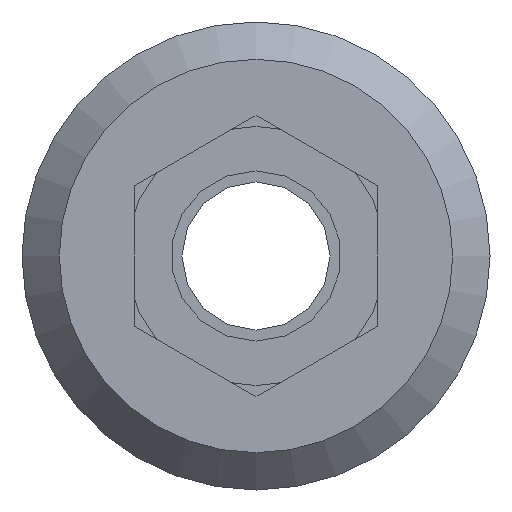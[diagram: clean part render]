
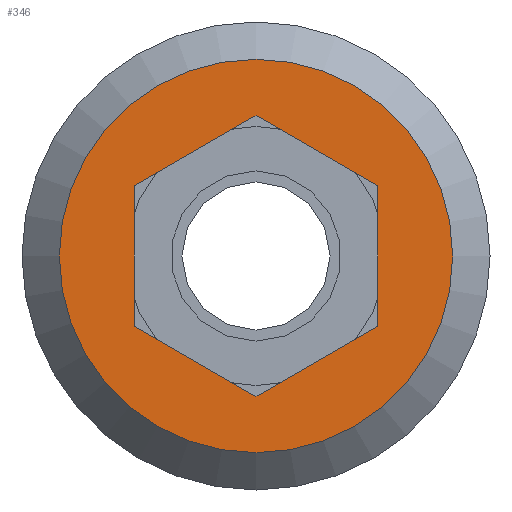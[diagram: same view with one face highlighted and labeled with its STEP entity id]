
A CAD part, front view. The second image highlights one B-rep face of the part: STEP entity #346.
In plain terms, the highlighted planar face has unit normal (0, -1, 0).
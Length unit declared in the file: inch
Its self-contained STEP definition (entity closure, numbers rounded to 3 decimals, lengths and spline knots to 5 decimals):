
#26=FACE_BOUND('',#89,.T.);
#43=CIRCLE('',#393,0.126);
#66=FACE_OUTER_BOUND('',#88,.T.);
#88=EDGE_LOOP('',(#293));
#89=EDGE_LOOP('',(#294,#295,#296,#297,#298,#299));
#95=LINE('',#524,#119);
#99=LINE('',#532,#123);
#102=LINE('',#538,#126);
#105=LINE('',#544,#129);
#108=LINE('',#550,#132);
#111=LINE('',#555,#135);
#119=VECTOR('',#412,0.3937);
#123=VECTOR('',#418,0.3937);
#126=VECTOR('',#423,0.3937);
#129=VECTOR('',#428,0.3937);
#132=VECTOR('',#433,0.3937);
#135=VECTOR('',#438,0.3937);
#143=VERTEX_POINT('',#522);
#144=VERTEX_POINT('',#523);
#147=VERTEX_POINT('',#531);
#149=VERTEX_POINT('',#537);
#151=VERTEX_POINT('',#543);
#153=VERTEX_POINT('',#549);
#168=VERTEX_POINT('',#593);
#177=EDGE_CURVE('',#143,#144,#95,.T.);
#181=EDGE_CURVE('',#147,#143,#99,.T.);
#184=EDGE_CURVE('',#149,#147,#102,.T.);
#187=EDGE_CURVE('',#151,#149,#105,.T.);
#190=EDGE_CURVE('',#153,#151,#108,.T.);
#193=EDGE_CURVE('',#144,#153,#111,.T.);
#211=EDGE_CURVE('',#168,#168,#43,.T.);
#293=ORIENTED_EDGE('',*,*,#211,.F.);
#294=ORIENTED_EDGE('',*,*,#177,.T.);
#295=ORIENTED_EDGE('',*,*,#193,.T.);
#296=ORIENTED_EDGE('',*,*,#190,.T.);
#297=ORIENTED_EDGE('',*,*,#187,.T.);
#298=ORIENTED_EDGE('',*,*,#184,.T.);
#299=ORIENTED_EDGE('',*,*,#181,.T.);
#330=PLANE('',#399);
#346=ADVANCED_FACE('',(#66,#26),#330,.T.);
#393=AXIS2_PLACEMENT_3D('',#594,#485,#486);
#399=AXIS2_PLACEMENT_3D('',#606,#499,#500);
#412=DIRECTION('',(0.866,0.,-0.5));
#418=DIRECTION('',(0.866,0.,0.5));
#423=DIRECTION('',(0.,0.,1.));
#428=DIRECTION('',(-0.866,0.,0.5));
#433=DIRECTION('',(-0.866,0.,-0.5));
#438=DIRECTION('',(0.,0.,-1.));
#485=DIRECTION('center_axis',(0.,1.,0.));
#486=DIRECTION('ref_axis',(0.,0.,1.));
#499=DIRECTION('center_axis',(0.,-1.,0.));
#500=DIRECTION('ref_axis',(0.,0.,-1.));
#522=CARTESIAN_POINT('',(0.,0.,0.09007));
#523=CARTESIAN_POINT('',(0.078,0.,0.04503));
#524=CARTESIAN_POINT('',(0.02978,0.,0.07287));
#531=CARTESIAN_POINT('',(-0.078,0.,0.04503));
#532=CARTESIAN_POINT('',(-0.06878,0.,0.05035));
#537=CARTESIAN_POINT('',(-0.078,0.,-0.04503));
#538=CARTESIAN_POINT('',(-0.078,0.,-0.04627));
#543=CARTESIAN_POINT('',(0.,0.,-0.09007));
#544=CARTESIAN_POINT('',(-0.00922,0.,-0.08475));
#549=CARTESIAN_POINT('',(0.078,0.,-0.04503));
#550=CARTESIAN_POINT('',(0.04822,0.,-0.06223));
#555=CARTESIAN_POINT('',(0.078,0.,-0.00123));
#593=CARTESIAN_POINT('',(0.,0.,-0.126));
#594=CARTESIAN_POINT('Origin',(0.,0.,0.));
#606=CARTESIAN_POINT('Origin',(0.,0.,-0.0475));
